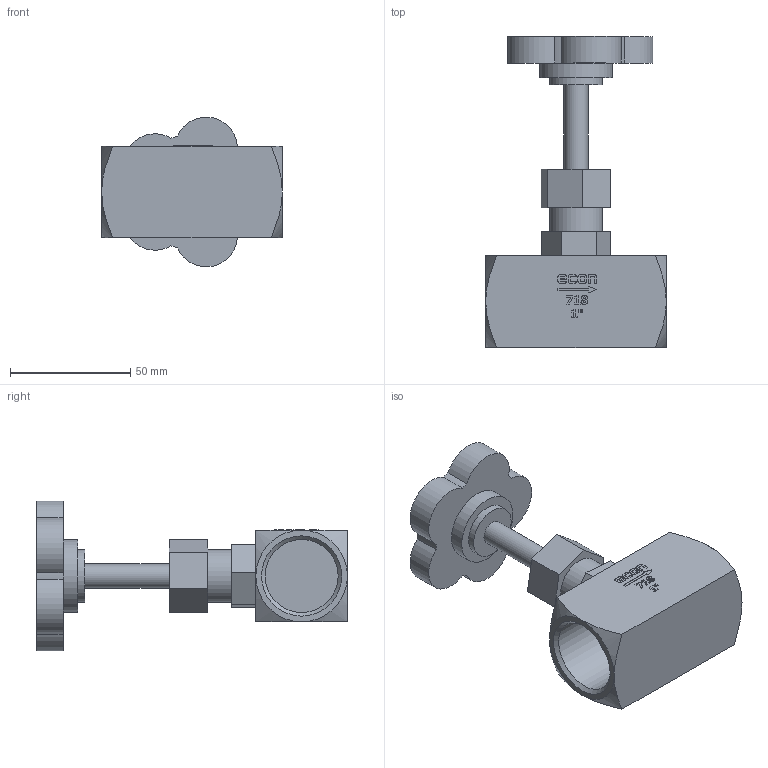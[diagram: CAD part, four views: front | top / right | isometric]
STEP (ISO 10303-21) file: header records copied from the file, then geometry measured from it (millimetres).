
FILE_DESCRIPTION(/* description */ ('Eriks item no: 11811611'),/* implementation_level */ '2;1');
FILE_NAME(/* name */ 'L:\DATA\ENG\Inventor\Econ 3D modellen\naaldafsluiter\718\718-025-PN100.stp',/* time_stamp */ '2024-02-12T09:13:43+01:00',/* author */ ('roger.thijssen'),/* organization */ (''),/* preprocessor_version */ 'ST-DEVELOPER v18',/* originating_system */ 'Autodesk Inventor 2020',/* authorisation */ '');
FILE_SCHEMA (('CONFIG_CONTROL_DESIGN'));
Length unit declared in the file: millimetre
Products named in the file (1): Needle valve, 718-025-PN100
Bounding box: 75 x 129 x 62.1 mm (x, y, z)
Volume: 122038.4 mm3; surface area: 31622.6 mm2
Topology: 1 solids, 1 shells, 197 faces, 505 edges, 336 vertices
Faces by surface type: plane 130, cylinder 29, bspline 27, cone 11
Full cylindrical faces by diameter (mm): 10 x1, 22 x2, 30 x1, 30.291 x2
Entity records: 6386 total; most frequent: CARTESIAN_POINT 1476, ORIENTED_EDGE 1010, DIRECTION 855, EDGE_CURVE 505, LINE 357, VECTOR 357, VERTEX_POINT 336, AXIS2_PLACEMENT_3D 249
